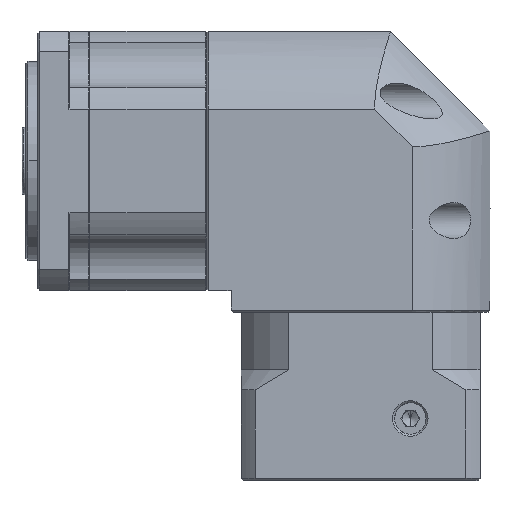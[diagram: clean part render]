
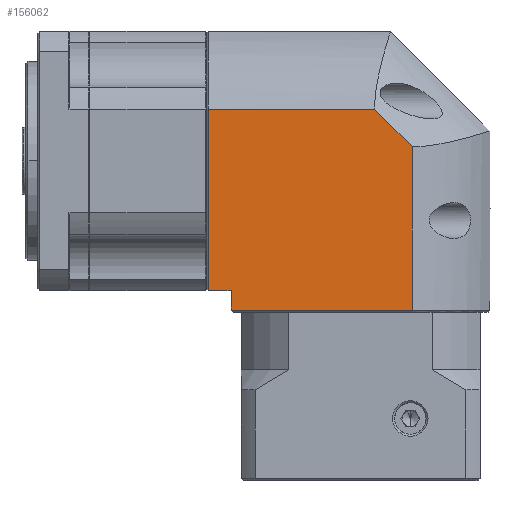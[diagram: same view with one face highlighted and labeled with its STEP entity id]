
A CAD part, top view. The second image highlights one B-rep face of the part: STEP entity #156062.
In plain terms, the highlighted planar face has unit normal (0, 0, 1).
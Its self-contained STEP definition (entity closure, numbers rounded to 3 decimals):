
#1627 = LINE ( 'NONE', #86527, #66556 ) ;
#4708 = FACE_OUTER_BOUND ( 'NONE', #9846, .T. ) ;
#5289 = VECTOR ( 'NONE', #84026, 1000. ) ;
#9846 = EDGE_LOOP ( 'NONE', ( #50056, #19506, #31001, #63609, #129114, #46012, #46608 ) ) ;
#10387 = CARTESIAN_POINT ( 'NONE',  ( 23.392, 9.213, -86.901 ) ) ;
#12209 = VECTOR ( 'NONE', #150255, 1000. ) ;
#13505 = DIRECTION ( 'NONE',  ( 1., 0., 0. ) ) ;
#16010 = LINE ( 'NONE', #89410, #12209 ) ;
#17755 = VERTEX_POINT ( 'NONE', #157111 ) ;
#18948 = DIRECTION ( 'NONE',  ( 0., 0., -1. ) ) ;
#19506 = ORIENTED_EDGE ( 'NONE', *, *, #66462, .T. ) ;
#20586 = LINE ( 'NONE', #118781, #53057 ) ;
#22219 = CARTESIAN_POINT ( 'NONE',  ( -27.798, -10.297, -86.901 ) ) ;
#30703 = PLANE ( 'NONE',  #84551 ) ;
#31001 = ORIENTED_EDGE ( 'NONE', *, *, #96964, .T. ) ;
#31620 = CARTESIAN_POINT ( 'NONE',  ( -32.098, -60.787, -86.901 ) ) ;
#32743 = CARTESIAN_POINT ( 'NONE',  ( 42.902, -10.297, -86.901 ) ) ;
#37872 = LINE ( 'NONE', #107953, #5289 ) ;
#42038 = LINE ( 'NONE', #10387, #53466 ) ;
#43898 = DIRECTION ( 'NONE',  ( 1., 0., 0. ) ) ;
#45006 = DIRECTION ( 'NONE',  ( -1., 0., 0. ) ) ;
#46012 = ORIENTED_EDGE ( 'NONE', *, *, #137684, .T. ) ;
#46608 = ORIENTED_EDGE ( 'NONE', *, *, #62258, .T. ) ;
#50056 = ORIENTED_EDGE ( 'NONE', *, *, #157495, .T. ) ;
#51860 = CARTESIAN_POINT ( 'NONE',  ( -22.098, -55.787, -86.901 ) ) ;
#53057 = VECTOR ( 'NONE', #82495, 1000. ) ;
#53466 = VECTOR ( 'NONE', #120263, 1000. ) ;
#62258 = EDGE_CURVE ( 'NONE', #71988, #130666, #113632, .T. ) ;
#63609 = ORIENTED_EDGE ( 'NONE', *, *, #95616, .T. ) ;
#66462 = EDGE_CURVE ( 'NONE', #68167, #17755, #16010, .T. ) ;
#66556 = VECTOR ( 'NONE', #13505, 1000. ) ;
#68167 = VERTEX_POINT ( 'NONE', #70924 ) ;
#70924 = CARTESIAN_POINT ( 'NONE',  ( 23.392, -19.794, -86.901 ) ) ;
#71988 = VERTEX_POINT ( 'NONE', #147144 ) ;
#78987 = VERTEX_POINT ( 'NONE', #51860 ) ;
#81195 = VECTOR ( 'NONE', #43898, 1000. ) ;
#82495 = DIRECTION ( 'NONE',  ( 0., -1., 0. ) ) ;
#84026 = DIRECTION ( 'NONE',  ( 0., -1., 0. ) ) ;
#84551 = AXIS2_PLACEMENT_3D ( 'NONE', #91943, #18948, #104229 ) ;
#86527 = CARTESIAN_POINT ( 'NONE',  ( -32.098, -55.787, -86.901 ) ) ;
#89410 = CARTESIAN_POINT ( 'NONE',  ( -347.41, 351.008, -86.901 ) ) ;
#91943 = CARTESIAN_POINT ( 'NONE',  ( -32.098, 9.213, -86.901 ) ) ;
#95616 = EDGE_CURVE ( 'NONE', #98413, #107046, #37872, .T. ) ;
#96964 = EDGE_CURVE ( 'NONE', #17755, #98413, #146212, .T. ) ;
#98413 = VERTEX_POINT ( 'NONE', #22219 ) ;
#104229 = DIRECTION ( 'NONE',  ( -1., 0., 0. ) ) ;
#107046 = VERTEX_POINT ( 'NONE', #154564 ) ;
#107953 = CARTESIAN_POINT ( 'NONE',  ( -27.798, -55.787, -86.901 ) ) ;
#113632 = LINE ( 'NONE', #31620, #81195 ) ;
#113723 = VECTOR ( 'NONE', #45006, 1000. ) ;
#118781 = CARTESIAN_POINT ( 'NONE',  ( -22.098, 9.213, -86.901 ) ) ;
#120263 = DIRECTION ( 'NONE',  ( 0., 1., 0. ) ) ;
#124878 = EDGE_CURVE ( 'NONE', #107046, #78987, #1627, .T. ) ;
#129114 = ORIENTED_EDGE ( 'NONE', *, *, #124878, .T. ) ;
#130666 = VERTEX_POINT ( 'NONE', #147744 ) ;
#137684 = EDGE_CURVE ( 'NONE', #78987, #71988, #20586, .T. ) ;
#146212 = LINE ( 'NONE', #32743, #113723 ) ;
#147144 = CARTESIAN_POINT ( 'NONE',  ( -22.098, -60.787, -86.901 ) ) ;
#147744 = CARTESIAN_POINT ( 'NONE',  ( 23.392, -60.787, -86.901 ) ) ;
#150255 = DIRECTION ( 'NONE',  ( -0.707, 0.707, 0. ) ) ;
#154564 = CARTESIAN_POINT ( 'NONE',  ( -27.798, -55.787, -86.901 ) ) ;
#156062 = ADVANCED_FACE ( 'NONE', ( #4708 ), #30703, .F. ) ;
#157111 = CARTESIAN_POINT ( 'NONE',  ( 13.895, -10.297, -86.901 ) ) ;
#157495 = EDGE_CURVE ( 'NONE', #130666, #68167, #42038, .T. ) ;
